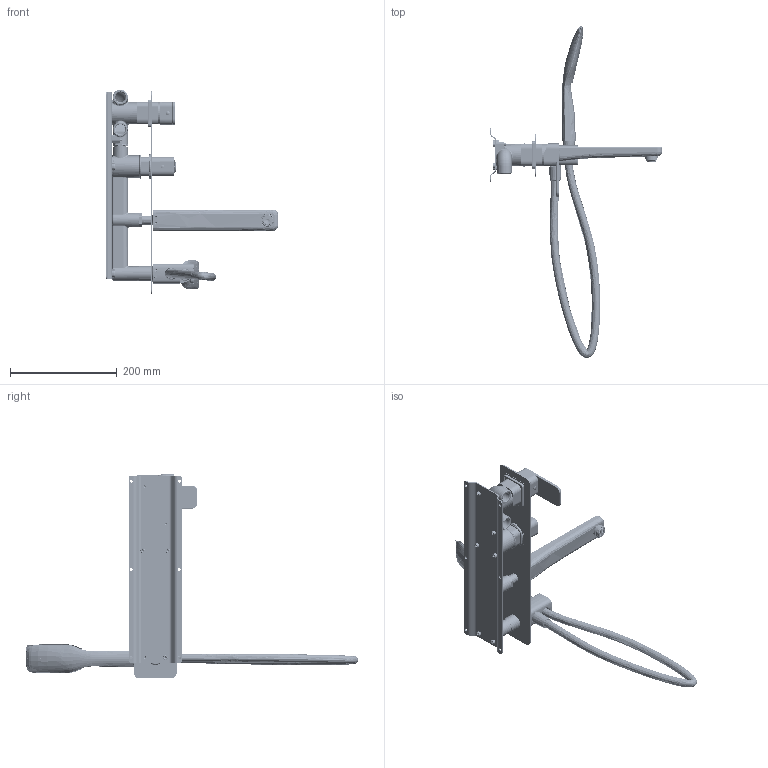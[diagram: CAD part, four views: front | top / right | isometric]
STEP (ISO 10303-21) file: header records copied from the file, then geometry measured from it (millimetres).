
FILE_DESCRIPTION((''),'2;1');
FILE_NAME('153814301OLT_ASM','2025-02-10T10:35:30',('tec19'),(''),'CREO PARAMETRIC BY PTC INC, 2018260','CREO PARAMETRIC BY PTC INC, 2018260','');
FILE_SCHEMA(('CONFIG_CONTROL_DESIGN'));
Products named in the file (55): 211036621601_1; 201214680102_1; 205074720102_1; 208002140601_2; 201213680102_1; 206094671602_1; 208001860601_1; 204061309901_1; 202060130701_1; 207010701601_1; 205010361601_1; 204011239901_1; 205020030102_1; 205074670105_1; 205011911601_1; 205011931601_1; 206094420126_1; 205055150126_1; 206029091626_1; 206094830126_1; 207043090701_1; 202025380226_1; 208000760601_1; 205072660105_1; 208000230601_1; 203126170126_1; 203010680126_1; 207010140601_1; 203101209901_1; 210052170126_1; 207044200701_1; 205023250102_1; 205075330105_1; 205010851601_1; 207043240701_1; 207042960716_1; 207043180701_2; 208001490601_1; 207030700601_2; 205072430105_1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
Assembly tree (68 placements, depth 3):
  153814301OLT_ASM
    153814301OLT_ASM_2_ASM
      211036621601_1
      201214680102_1
      205074720102_1
      208002140601_2  x4
      201213680102_1
      206094671602_1
      208001860601_1  x2
      204061309901_1
      202060130701_1
      207010701601_1
      205010361601_1
      204011239901_1
      205020030102_1
      205074670105_1
      205011911601_1  x4
      205011931601_1  x2
      206094420126_1
      205055150126_1
      206029091626_1
      206094830126_1
      207043090701_1
      202025380226_1
      208000760601_1  x3
      205072660105_1
      208000230601_1  x2
      203126170126_1
      203010680126_1
      207010140601_1
      203101209901_1
      210052170126_1
      207044200701_1
      205023250102_1
      205075330105_1
      205010851601_1  x4
      207043240701_1
      207042960716_1
      207043180701_2
      208001490601_1
      207030700601_2
      205072430105_1
      205010641601_1
      202030530601_1
      202012380226_1
      205010171601_1
      202030410726_1
      207012450601_1
      204090080701_1
      207010601601_1
      208000210601_1
      20240611-1_1
      00_1
      210015980726_1
      206080950701_1
Bounding box: 322.1 x 620.67 x 382.5 mm (x, y, z)
Volume: 880903.9 mm3; surface area: 632814.7 mm2
Topology: 68 solids, 130 shells, 5804 faces, 15635 edges, 10200 vertices
Faces by surface type: plane 2210, cylinder 2068, bspline 696, torus 399, cone 386, sphere 39, extrusion 6
Entity records: 234877 total; most frequent: CARTESIAN_POINT 104714, ORIENTED_EDGE 28143, DIRECTION 24876, EDGE_CURVE 14170, VERTEX_POINT 9267, AXIS2_PLACEMENT_3D 9221, VECTOR 6434, LINE 6428
